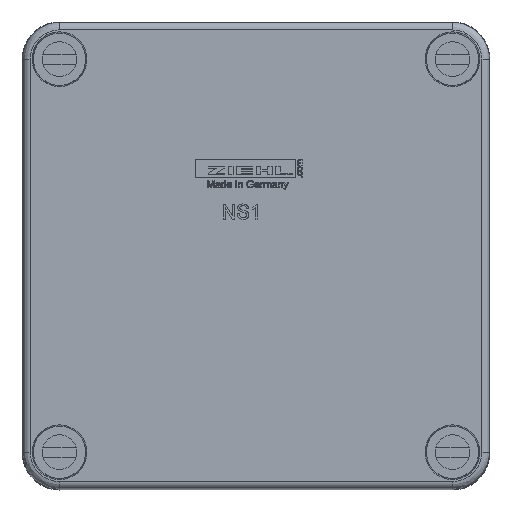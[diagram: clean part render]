
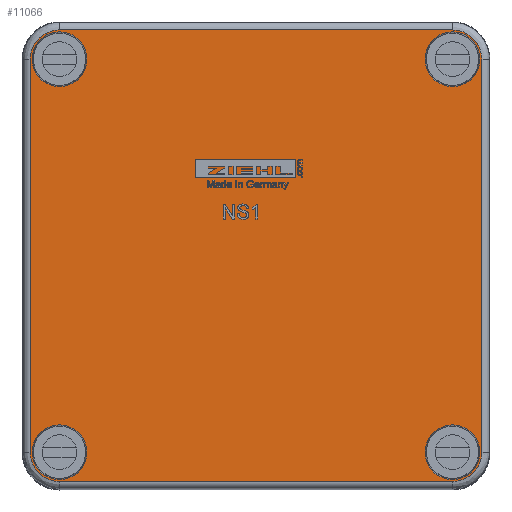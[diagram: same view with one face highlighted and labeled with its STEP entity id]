
A CAD part, top view. The second image highlights one B-rep face of the part: STEP entity #11066.
In plain terms, the highlighted planar face has unit normal (0, 0, 1).
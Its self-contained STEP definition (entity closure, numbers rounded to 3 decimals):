
#245 = VERTEX_POINT ( 'NONE', #574 ) ;
#366 = DIRECTION ( 'NONE',  ( 0., 1., 0. ) ) ;
#574 = CARTESIAN_POINT ( 'NONE',  ( -45.382, -39.5, 15. ) ) ;
#1041 = CARTESIAN_POINT ( 'NONE',  ( -45.382, -39.5, 15. ) ) ;
#1641 = VERTEX_POINT ( 'NONE', #14683 ) ;
#2756 = EDGE_CURVE ( 'NONE', #36670, #36670, #30170, .T. ) ;
#2896 = EDGE_CURVE ( 'NONE', #43712, #39755, #48472, .T. ) ;
#2969 = DIRECTION ( 'NONE',  ( -1., 0., 0. ) ) ;
#2975 = CARTESIAN_POINT ( 'NONE',  ( 45., -39.5, 15. ) ) ;
#3125 = CARTESIAN_POINT ( 'NONE',  ( -39.5, -39.5, 15. ) ) ;
#3638 = CARTESIAN_POINT ( 'NONE',  ( 45.382, -39.5, 15. ) ) ;
#3975 = ORIENTED_EDGE ( 'NONE', *, *, #2756, .F. ) ;
#4137 = ORIENTED_EDGE ( 'NONE', *, *, #2896, .F. ) ;
#4459 = CIRCLE ( 'NONE', #22817, 5.5 ) ;
#4527 = CARTESIAN_POINT ( 'NONE',  ( -45.382, 42.946, 15. ) ) ;
#5246 = EDGE_LOOP ( 'NONE', ( #3975 ) ) ;
#5329 = CARTESIAN_POINT ( 'NONE',  ( -45.382, 39.5, 15. ) ) ;
#5497 = AXIS2_PLACEMENT_3D ( 'NONE', #3125, #30096, #6975 ) ;
#5702 = CARTESIAN_POINT ( 'NONE',  ( 42.946, -45.382, 15. ) ) ;
#6232 = ORIENTED_EDGE ( 'NONE', *, *, #28761, .F. ) ;
#6975 = DIRECTION ( 'NONE',  ( 1., 0., 0. ) ) ;
#8046 = FACE_BOUND ( 'NONE', #23994, .T. ) ;
#8084 = CARTESIAN_POINT ( 'NONE',  ( -45.382, 39.5, 15. ) ) ;
#8403 = CARTESIAN_POINT ( 'NONE',  ( -45.382, 39.5, 15. ) ) ;
#9910 = EDGE_CURVE ( 'NONE', #40902, #40902, #4459, .T. ) ;
#10719 = DIRECTION ( 'NONE',  ( 0., 0., -1. ) ) ;
#10952 = CARTESIAN_POINT ( 'NONE',  ( -39.5, 39.5, 15. ) ) ;
#11066 = ADVANCED_FACE ( 'NONE', ( #18297, #38783, #40024, #8046, #47797 ), #33602, .F. ) ;
#11122 = ORIENTED_EDGE ( 'NONE', *, *, #26796, .F. ) ;
#14295 = LINE ( 'NONE', #8084, #43776 ) ;
#14683 = CARTESIAN_POINT ( 'NONE',  ( 39.5, -45.382, 15. ) ) ;
#14831 = DIRECTION ( 'NONE',  ( 1., 0., 0. ) ) ;
#14859 = ORIENTED_EDGE ( 'NONE', *, *, #15852, .F. ) ;
#14945 = AXIS2_PLACEMENT_3D ( 'NONE', #10952, #37878, #14831 ) ;
#15537 = EDGE_CURVE ( 'NONE', #40842, #245, #17328, .T. ) ;
#15852 = EDGE_CURVE ( 'NONE', #30396, #32593, #33305, .T. ) ;
#15917 = LINE ( 'NONE', #22282, #26114 ) ;
#17074 = CARTESIAN_POINT ( 'NONE',  ( 45.382, 42.946, 15. ) ) ;
#17145 = CARTESIAN_POINT ( 'NONE',  ( 39.5, -39.5, 15. ) ) ;
#17328 =( BOUNDED_CURVE ( )  B_SPLINE_CURVE ( 3, ( #47166, #20273, #24102, #1041 ),
 .UNSPECIFIED., .F., .F. ) 
 B_SPLINE_CURVE_WITH_KNOTS ( ( 4, 4 ),
 ( 0., 1. ),
 .UNSPECIFIED. ) 
 CURVE ( )  GEOMETRIC_REPRESENTATION_ITEM ( )  RATIONAL_B_SPLINE_CURVE ( ( 1., 0.805, 0.805, 1. ) ) 
 REPRESENTATION_ITEM ( '' )  );
#17370 = VERTEX_POINT ( 'NONE', #2975 ) ;
#18297 = FACE_BOUND ( 'NONE', #25840, .T. ) ;
#18732 = CARTESIAN_POINT ( 'NONE',  ( 39.5, 39.5, 15. ) ) ;
#19145 = ORIENTED_EDGE ( 'NONE', *, *, #41788, .F. ) ;
#20116 = ORIENTED_EDGE ( 'NONE', *, *, #43165, .F. ) ;
#20227 = LINE ( 'NONE', #29922, #26825 ) ;
#20273 = CARTESIAN_POINT ( 'NONE',  ( -42.946, -45.382, 15. ) ) ;
#20534 = CARTESIAN_POINT ( 'NONE',  ( 45.382, 39.5, 15. ) ) ;
#21011 = DIRECTION ( 'NONE',  ( 1., 0., 0. ) ) ;
#21286 = AXIS2_PLACEMENT_3D ( 'NONE', #33772, #10719, #37610 ) ;
#22282 = CARTESIAN_POINT ( 'NONE',  ( -45.382, 45.382, 15. ) ) ;
#22403 = CARTESIAN_POINT ( 'NONE',  ( -39.5, 45.382, 15. ) ) ;
#22533 = DIRECTION ( 'NONE',  ( 0., -1., 0. ) ) ;
#22571 = DIRECTION ( 'NONE',  ( 1., 0., 0. ) ) ;
#22765 = DIRECTION ( 'NONE',  ( 1., 0., 0. ) ) ;
#22817 = AXIS2_PLACEMENT_3D ( 'NONE', #18732, #45644, #22571 ) ;
#23994 = EDGE_LOOP ( 'NONE', ( #32480 ) ) ;
#24102 = CARTESIAN_POINT ( 'NONE',  ( -45.382, -42.946, 15. ) ) ;
#25840 = EDGE_LOOP ( 'NONE', ( #32124 ) ) ;
#25941 = CARTESIAN_POINT ( 'NONE',  ( 45.382, 39.5, 15. ) ) ;
#26114 = VECTOR ( 'NONE', #22765, 1000. ) ;
#26417 = CIRCLE ( 'NONE', #46081, 5.5 ) ;
#26796 = EDGE_CURVE ( 'NONE', #32593, #1641, #39067, .T. ) ;
#26825 = VECTOR ( 'NONE', #2969, 1000. ) ;
#28761 = EDGE_CURVE ( 'NONE', #17370, #17370, #26417, .T. ) ;
#29922 = CARTESIAN_POINT ( 'NONE',  ( -45.382, -45.382, 15. ) ) ;
#30096 = DIRECTION ( 'NONE',  ( 0., 0., 1. ) ) ;
#30170 = CIRCLE ( 'NONE', #14945, 5.5 ) ;
#30396 = VERTEX_POINT ( 'NONE', #20534 ) ;
#30582 = EDGE_CURVE ( 'NONE', #1641, #40842, #20227, .T. ) ;
#30631 = CIRCLE ( 'NONE', #5497, 5.5 ) ;
#31061 = ORIENTED_EDGE ( 'NONE', *, *, #15537, .F. ) ;
#32096 = VECTOR ( 'NONE', #22533, 1000. ) ;
#32124 = ORIENTED_EDGE ( 'NONE', *, *, #39187, .F. ) ;
#32480 = ORIENTED_EDGE ( 'NONE', *, *, #9910, .F. ) ;
#32593 = VERTEX_POINT ( 'NONE', #3638 ) ;
#32659 = CARTESIAN_POINT ( 'NONE',  ( 39.5, -45.382, 15. ) ) ;
#33305 = LINE ( 'NONE', #25941, #32096 ) ;
#33379 = ORIENTED_EDGE ( 'NONE', *, *, #30582, .F. ) ;
#33554 = ORIENTED_EDGE ( 'NONE', *, *, #48903, .F. ) ;
#33602 = PLANE ( 'NONE',  #21286 ) ;
#33772 = CARTESIAN_POINT ( 'NONE',  ( -45.382, 39.5, 15. ) ) ;
#35352 = CARTESIAN_POINT ( 'NONE',  ( -39.5, 45.382, 15. ) ) ;
#36245 = CARTESIAN_POINT ( 'NONE',  ( 39.5, 45.382, 15. ) ) ;
#36297 =( BOUNDED_CURVE ( )  B_SPLINE_CURVE ( 3, ( #36245, #40139, #17074, #43978 ),
 .UNSPECIFIED., .F., .T. ) 
 B_SPLINE_CURVE_WITH_KNOTS ( ( 4, 4 ),
 ( 0., 1. ),
 .UNSPECIFIED. ) 
 CURVE ( )  GEOMETRIC_REPRESENTATION_ITEM ( )  RATIONAL_B_SPLINE_CURVE ( ( 1., 0.805, 0.805, 1. ) ) 
 REPRESENTATION_ITEM ( '' )  );
#36670 = VERTEX_POINT ( 'NONE', #48092 ) ;
#37610 = DIRECTION ( 'NONE',  ( -1., 0., 0. ) ) ;
#37878 = DIRECTION ( 'NONE',  ( 0., 0., 1. ) ) ;
#37983 = CARTESIAN_POINT ( 'NONE',  ( -34., -39.5, 15. ) ) ;
#38783 = FACE_BOUND ( 'NONE', #49607, .T. ) ;
#39067 =( BOUNDED_CURVE ( )  B_SPLINE_CURVE ( 3, ( #47769, #47930, #5702, #32659 ),
 .UNSPECIFIED., .F., .F. ) 
 B_SPLINE_CURVE_WITH_KNOTS ( ( 4, 4 ),
 ( 0., 1. ),
 .UNSPECIFIED. ) 
 CURVE ( )  GEOMETRIC_REPRESENTATION_ITEM ( )  RATIONAL_B_SPLINE_CURVE ( ( 1., 0.805, 0.805, 1. ) ) 
 REPRESENTATION_ITEM ( '' )  );
#39187 = EDGE_CURVE ( 'NONE', #49885, #49885, #30631, .T. ) ;
#39755 = VERTEX_POINT ( 'NONE', #22403 ) ;
#40024 = FACE_OUTER_BOUND ( 'NONE', #41853, .T. ) ;
#40139 = CARTESIAN_POINT ( 'NONE',  ( 42.946, 45.382, 15. ) ) ;
#40842 = VERTEX_POINT ( 'NONE', #49674 ) ;
#40902 = VERTEX_POINT ( 'NONE', #44561 ) ;
#41788 = EDGE_CURVE ( 'NONE', #39755, #47126, #15917, .T. ) ;
#41853 = EDGE_LOOP ( 'NONE', ( #14859, #33554, #19145, #4137, #20116, #31061, #33379, #11122 ) ) ;
#42754 = CARTESIAN_POINT ( 'NONE',  ( -42.946, 45.382, 15. ) ) ;
#43165 = EDGE_CURVE ( 'NONE', #245, #43712, #14295, .T. ) ;
#43712 = VERTEX_POINT ( 'NONE', #5329 ) ;
#43776 = VECTOR ( 'NONE', #366, 1000. ) ;
#43978 = CARTESIAN_POINT ( 'NONE',  ( 45.382, 39.5, 15. ) ) ;
#44052 = DIRECTION ( 'NONE',  ( 0., 0., 1. ) ) ;
#44561 = CARTESIAN_POINT ( 'NONE',  ( 45., 39.5, 15. ) ) ;
#45644 = DIRECTION ( 'NONE',  ( 0., 0., 1. ) ) ;
#46081 = AXIS2_PLACEMENT_3D ( 'NONE', #17145, #44052, #21011 ) ;
#47126 = VERTEX_POINT ( 'NONE', #47340 ) ;
#47166 = CARTESIAN_POINT ( 'NONE',  ( -39.5, -45.382, 15. ) ) ;
#47340 = CARTESIAN_POINT ( 'NONE',  ( 39.5, 45.382, 15. ) ) ;
#47769 = CARTESIAN_POINT ( 'NONE',  ( 45.382, -39.5, 15. ) ) ;
#47797 = FACE_BOUND ( 'NONE', #5246, .T. ) ;
#47930 = CARTESIAN_POINT ( 'NONE',  ( 45.382, -42.946, 15. ) ) ;
#48092 = CARTESIAN_POINT ( 'NONE',  ( -34., 39.5, 15. ) ) ;
#48472 =( BOUNDED_CURVE ( )  B_SPLINE_CURVE ( 3, ( #8403, #4527, #42754, #35352 ),
 .UNSPECIFIED., .F., .F. ) 
 B_SPLINE_CURVE_WITH_KNOTS ( ( 4, 4 ),
 ( 0., 1. ),
 .UNSPECIFIED. ) 
 CURVE ( )  GEOMETRIC_REPRESENTATION_ITEM ( )  RATIONAL_B_SPLINE_CURVE ( ( 1., 0.805, 0.805, 1. ) ) 
 REPRESENTATION_ITEM ( '' )  );
#48903 = EDGE_CURVE ( 'NONE', #47126, #30396, #36297, .T. ) ;
#49607 = EDGE_LOOP ( 'NONE', ( #6232 ) ) ;
#49674 = CARTESIAN_POINT ( 'NONE',  ( -39.5, -45.382, 15. ) ) ;
#49885 = VERTEX_POINT ( 'NONE', #37983 ) ;
